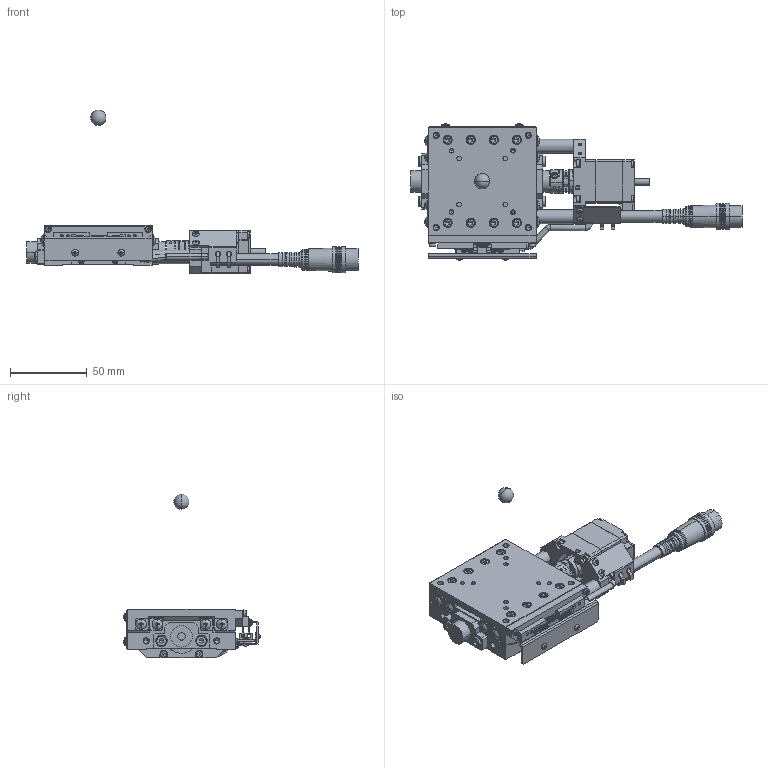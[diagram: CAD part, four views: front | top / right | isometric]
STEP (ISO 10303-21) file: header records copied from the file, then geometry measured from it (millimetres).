
FILE_DESCRIPTION( (''), '2;1');
FILE_NAME ('SA07A-R2T01-R.stp','2022-01-24T14:36:21',(''),(''),'spGate 17.5.5','','');
FILE_SCHEMA (('AUTOMOTIVE_DESIGN'));
Length unit declared in the file: millimetre
Products named in the file (8): Assembly; SA07A-R2T01-R-prt0; SA07A-R2T01-R-prt1; SA07A-R2T01-R-prt2; SA07A-R2T01-R-prt3; SA07A-R2T01-R-prt4; SA07A-R2T01-R-prt5; SA07A-R2T01-R-prt6
Assembly tree (7 placements, depth 2):
  Assembly
    SA07A-R2T01-R-prt0
    SA07A-R2T01-R-prt1
    SA07A-R2T01-R-prt2
    SA07A-R2T01-R-prt3
    SA07A-R2T01-R-prt4
    SA07A-R2T01-R-prt5
    SA07A-R2T01-R-prt6
Bounding box: 216 x 88.66 x 106.5 mm (x, y, z)
Volume: 183568.7 mm3; surface area: 63689.6 mm2
Topology: 7 solids, 7 shells, 2941 faces, 7510 edges, 4725 vertices
Faces by surface type: plane 1828, cylinder 701, bspline 364, sphere 48
Entity records: 150715 total; most frequent: CARTESIAN_POINT 21506, ORIENTED_EDGE 14840, DIRECTION 13969, COLOUR_RGB 10368, PRESENTATION_STYLE_ASSIGNMENT 10368, STYLED_ITEM 10368, EDGE_CURVE 7420, DRAUGHTING_PRE_DEFINED_CURVE_FONT 7420
